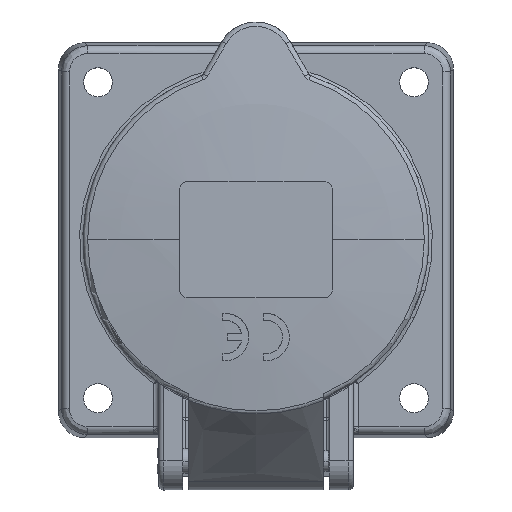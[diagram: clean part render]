
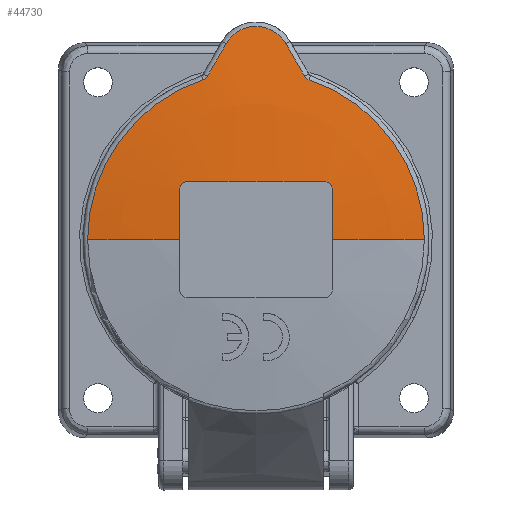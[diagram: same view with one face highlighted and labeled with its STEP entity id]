
A CAD part, top view. The second image highlights one B-rep face of the part: STEP entity #44730.
In plain terms, the highlighted spherical face has radius 250 mm.
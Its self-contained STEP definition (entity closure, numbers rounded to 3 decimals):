
#1560=CARTESIAN_POINT('',(0.,0.,59.646));
#1561=DIRECTION('',(0.,0.,1.));
#1562=DIRECTION('',(-0.315,0.949,0.));
#1563=AXIS2_PLACEMENT_3D('',#1560,#1561,#1562);
#1568=CARTESIAN_POINT('',(-9.245,31.026,59.595));
#1569=CARTESIAN_POINT('',(-9.28,30.964,59.601));
#1570=CARTESIAN_POINT('',(-9.36,30.846,59.613));
#1571=CARTESIAN_POINT('',(-9.51,30.681,59.628));
#1572=CARTESIAN_POINT('',(-9.683,30.54,59.639));
#1573=CARTESIAN_POINT('',(-9.875,30.426,59.645));
#1574=CARTESIAN_POINT('',(-10.007,30.372,59.646));
#1575=CARTESIAN_POINT('',(-10.075,30.349,59.646));
#1580=CARTESIAN_POINT('',(-20.368,11.76,-188.3));
#1581=DIRECTION('',(0.866,-0.5,0.));
#1582=DIRECTION('',(0.059,0.102,0.993));
#1583=AXIS2_PLACEMENT_3D('',#1580,#1581,#1582);
#1588=CARTESIAN_POINT('',(5.652,37.249,58.845));
#1589=CARTESIAN_POINT('',(5.524,37.47,58.814));
#1590=CARTESIAN_POINT('',(5.244,37.895,58.756));
#1591=CARTESIAN_POINT('',(4.753,38.48,58.676));
#1592=CARTESIAN_POINT('',(4.198,39.002,58.604));
#1593=CARTESIAN_POINT('',(3.586,39.456,58.541));
#1594=CARTESIAN_POINT('',(2.927,39.835,58.489));
#1595=CARTESIAN_POINT('',(2.23,40.135,58.448));
#1596=CARTESIAN_POINT('',(1.503,40.352,58.418));
#1597=CARTESIAN_POINT('',(0.757,40.483,58.4));
#1598=CARTESIAN_POINT('',(0.001,40.527,58.394));
#1599=CARTESIAN_POINT('',(-0.756,40.483,
58.4));
#1600=CARTESIAN_POINT('',(-1.502,40.352,58.418));
#1601=CARTESIAN_POINT('',(-2.229,40.135,58.448));
#1602=CARTESIAN_POINT('',(-2.927,39.835,58.489));
#1603=CARTESIAN_POINT('',(-3.586,39.456,58.541));
#1604=CARTESIAN_POINT('',(-4.198,39.002,58.604));
#1605=CARTESIAN_POINT('',(-4.753,38.48,58.676));
#1606=CARTESIAN_POINT('',(-5.244,37.895,58.756));
#1607=CARTESIAN_POINT('',(-5.524,37.47,58.814));
#1608=CARTESIAN_POINT('',(-5.652,37.249,58.845));
#1613=CARTESIAN_POINT('',(20.368,11.76,-188.3));
#1614=DIRECTION('',(-0.866,-0.5,0.));
#1615=DIRECTION('',(-0.045,0.077,0.996));
#1616=AXIS2_PLACEMENT_3D('',#1613,#1614,#1615);
#1621=CARTESIAN_POINT('',(10.075,30.349,59.646));
#1622=CARTESIAN_POINT('',(10.007,30.372,59.646));
#1623=CARTESIAN_POINT('',(9.874,30.426,59.645));
#1624=CARTESIAN_POINT('',(9.683,30.54,59.639));
#1625=CARTESIAN_POINT('',(9.509,30.681,59.628));
#1626=CARTESIAN_POINT('',(9.36,30.846,59.613));
#1627=CARTESIAN_POINT('',(9.28,30.964,59.601));
#1628=CARTESIAN_POINT('',(9.245,31.026,59.595));
#1633=CARTESIAN_POINT('',(0.,0.,59.646));
#1634=DIRECTION('',(0.,0.,1.));
#1635=DIRECTION('',(1.,0.,0.));
#1636=AXIS2_PLACEMENT_3D('',#1633,#1634,#1635);
#1641=CARTESIAN_POINT('',(14.5,0.,-188.3));
#1642=DIRECTION('',(1.,0.,0.));
#1643=DIRECTION('',(0.,0.038,0.999));
#1644=AXIS2_PLACEMENT_3D('',#1641,#1642,#1643);
#1649=CARTESIAN_POINT('',(13.,11.,61.119));
#1650=CARTESIAN_POINT('',(13.087,11.,61.115));
#1651=CARTESIAN_POINT('',(13.262,10.985,61.106));
#1652=CARTESIAN_POINT('',(13.516,10.917,61.096));
#1653=CARTESIAN_POINT('',(13.754,10.805,61.087));
#1654=CARTESIAN_POINT('',(13.969,10.655,61.082));
#1655=CARTESIAN_POINT('',(14.155,10.469,61.079));
#1656=CARTESIAN_POINT('',(14.306,10.254,61.08));
#1657=CARTESIAN_POINT('',(14.417,10.016,61.083));
#1658=CARTESIAN_POINT('',(14.485,9.762,61.089));
#1659=CARTESIAN_POINT('',(14.5,9.587,61.095));
#1660=CARTESIAN_POINT('',(14.5,9.5,61.098));
#1665=CARTESIAN_POINT('',(0.,11.,-188.3));
#1666=DIRECTION('',(0.,1.,0.));
#1667=DIRECTION('',(-0.052,0.,0.999));
#1668=AXIS2_PLACEMENT_3D('',#1665,#1666,#1667);
#1673=CARTESIAN_POINT('',(-14.5,9.5,61.098));
#1674=CARTESIAN_POINT('',(-14.5,9.587,61.095));
#1675=CARTESIAN_POINT('',(-14.485,9.762,61.089));
#1676=CARTESIAN_POINT('',(-14.417,10.016,61.083));
#1677=CARTESIAN_POINT('',(-14.306,10.254,61.08));
#1678=CARTESIAN_POINT('',(-14.155,10.469,61.079));
#1679=CARTESIAN_POINT('',(-13.969,10.655,61.082));
#1680=CARTESIAN_POINT('',(-13.754,10.805,61.087));
#1681=CARTESIAN_POINT('',(-13.516,10.917,61.096));
#1682=CARTESIAN_POINT('',(-13.262,10.985,61.106));
#1683=CARTESIAN_POINT('',(-13.087,11.,61.115));
#1684=CARTESIAN_POINT('',(-13.,11.,61.119));
#1689=CARTESIAN_POINT('',(-14.5,0.,-188.3));
#1690=DIRECTION('',(-1.,0.,0.));
#1691=DIRECTION('',(0.,0.,1.));
#1692=AXIS2_PLACEMENT_3D('',#1689,#1690,#1691);
#2033=CARTESIAN_POINT('',(0.,0.,-188.3));
#2034=DIRECTION('',(0.,1.,0.));
#2035=DIRECTION('',(-0.128,0.,0.992));
#2036=AXIS2_PLACEMENT_3D('',#2033,#2034,#2035);
#2097=CARTESIAN_POINT('',(0.,0.,-188.3));
#2098=DIRECTION('',(0.,-1.,0.));
#2099=DIRECTION('',(0.128,0.,0.992));
#2100=AXIS2_PLACEMENT_3D('',#2097,#2098,#2099);
#40056=CARTESIAN_POINT('',(14.5,9.5,61.098));
#40057=CARTESIAN_POINT('',(14.5,0.,61.279));
#40058=VERTEX_POINT('',#40056);
#40059=VERTEX_POINT('',#40057);
#40060=CARTESIAN_POINT('',(-13.,11.,61.119));
#40061=CARTESIAN_POINT('',(13.,11.,61.119));
#40062=VERTEX_POINT('',#40060);
#40063=VERTEX_POINT('',#40061);
#40064=CARTESIAN_POINT('',(-14.5,0.,61.279));
#40065=CARTESIAN_POINT('',(-14.5,9.5,61.098));
#40066=VERTEX_POINT('',#40064);
#40067=VERTEX_POINT('',#40065);
#40106=CARTESIAN_POINT('',(-31.978,0.,59.646));
#40108=VERTEX_POINT('',#40106);
#40110=CARTESIAN_POINT('',(-10.075,30.349,
59.646));
#40111=VERTEX_POINT('',#40110);
#40112=VERTEX_POINT('',#1568);
#40115=CARTESIAN_POINT('',(-5.652,37.249,
58.845));
#40116=VERTEX_POINT('',#40115);
#40119=VERTEX_POINT('',#1588);
#40121=CARTESIAN_POINT('',(9.245,31.026,59.595));
#40122=VERTEX_POINT('',#40121);
#40125=VERTEX_POINT('',#1621);
#40127=CARTESIAN_POINT('',(31.978,0.,59.646));
#40128=VERTEX_POINT('',#40127);
#44696=CARTESIAN_POINT('',(0.,0.,-188.3));
#44697=DIRECTION('',(0.,0.,-1.));
#44698=DIRECTION('',(1.,0.,0.));
#44699=AXIS2_PLACEMENT_3D('',#44696,#44697,#44698);
#44700=SPHERICAL_SURFACE('1241',#44699,250.);
#44701=ORIENTED_EDGE('4655',*,*,#44673,.F.);
#44703=ORIENTED_EDGE('4656',*,*,#44702,.F.);
#44705=ORIENTED_EDGE('4658',*,*,#44704,.F.);
#44707=ORIENTED_EDGE('4660',*,*,#44706,.F.);
#44709=ORIENTED_EDGE('4662',*,*,#44708,.F.);
#44711=ORIENTED_EDGE('4664',*,*,#44710,.F.);
#44713=ORIENTED_EDGE('4666',*,*,#44712,.F.);
#44715=ORIENTED_EDGE('4669',*,*,#44714,.T.);
#44717=ORIENTED_EDGE('4599',*,*,#44716,.F.);
#44719=ORIENTED_EDGE('4604',*,*,#44718,.F.);
#44721=ORIENTED_EDGE('4600',*,*,#44720,.F.);
#44723=ORIENTED_EDGE('4605',*,*,#44722,.F.);
#44725=ORIENTED_EDGE('4601',*,*,#44724,.F.);
#44727=ORIENTED_EDGE('4668',*,*,#44726,.F.);
#44728=EDGE_LOOP('1241',(#44701,#44703,#44705,#44707,#44709,#44711,#44713,
#44715,#44717,#44719,#44721,#44723,#44725,#44727));
#44729=FACE_OUTER_BOUND('1241',#44728,.F.);
#1564=CIRCLE('4655',#1563,31.978);
#1576=B_SPLINE_CURVE_WITH_KNOTS('4656',3,(#1568,#1569,#1570,#1571,#1572,#1573,
#1574,#1575),.UNSPECIFIED.,.F.,.F.,(4,1,1,1,1,4),(0.,0.2,0.4,0.6,0.8,
1.),.UNSPECIFIED.);
#1584=CIRCLE('4658',#1583,248.891);
#1609=B_SPLINE_CURVE_WITH_KNOTS('4660',3,(#1588,#1589,#1590,#1591,#1592,#1593,
#1594,#1595,#1596,#1597,#1598,#1599,#1600,#1601,#1602,#1603,#1604,#1605,#1606,
#1607,#1608),.UNSPECIFIED.,.F.,.F.,(4,1,1,1,1,1,1,1,1,1,1,1,1,1,1,1,1,1,4),
(0.,0.056,0.111,0.167,0.222,
0.278,0.333,0.389,0.444,0.5,
0.556,0.611,0.667,0.722,
0.778,0.833,0.889,0.944,1.),
.UNSPECIFIED.);
#1617=CIRCLE('4662',#1616,248.891);
#1629=B_SPLINE_CURVE_WITH_KNOTS('4664',3,(#1621,#1622,#1623,#1624,#1625,#1626,
#1627,#1628),.UNSPECIFIED.,.F.,.F.,(4,1,1,1,1,4),(0.,0.2,0.4,0.6,0.8,
1.),.UNSPECIFIED.);
#1637=CIRCLE('4666',#1636,31.978);
#1645=CIRCLE('4599',#1644,249.579);
#1661=B_SPLINE_CURVE_WITH_KNOTS('4604',3,(#1649,#1650,#1651,#1652,#1653,#1654,
#1655,#1656,#1657,#1658,#1659,#1660),.UNSPECIFIED.,.F.,.F.,(4,1,1,1,1,1,1,1,1,
4),(0.,0.111,0.222,0.333,
0.444,0.556,0.667,0.778,
0.889,1.),.UNSPECIFIED.);
#1669=CIRCLE('4600',#1668,249.758);
#1685=B_SPLINE_CURVE_WITH_KNOTS('4605',3,(#1673,#1674,#1675,#1676,#1677,#1678,
#1679,#1680,#1681,#1682,#1683,#1684),.UNSPECIFIED.,.F.,.F.,(4,1,1,1,1,1,1,1,1,
4),(0.,0.111,0.222,0.333,
0.444,0.556,0.667,0.778,
0.889,1.),.UNSPECIFIED.);
#1693=CIRCLE('4601',#1692,249.579);
#2037=CIRCLE('4668',#2036,250.);
#2101=CIRCLE('4669',#2100,250.);
#44673=EDGE_CURVE('4655',#40111,#40108,#1564,.T.);
#44702=EDGE_CURVE('4656',#40112,#40111,#1576,.T.);
#44704=EDGE_CURVE('4658',#40116,#40112,#1584,.T.);
#44706=EDGE_CURVE('4660',#40119,#40116,#1609,.T.);
#44708=EDGE_CURVE('4662',#40122,#40119,#1617,.T.);
#44710=EDGE_CURVE('4664',#40125,#40122,#1629,.T.);
#44712=EDGE_CURVE('4666',#40128,#40125,#1637,.T.);
#44714=EDGE_CURVE('4669',#40128,#40059,#2101,.T.);
#44716=EDGE_CURVE('4599',#40058,#40059,#1645,.T.);
#44718=EDGE_CURVE('4604',#40063,#40058,#1661,.T.);
#44720=EDGE_CURVE('4600',#40062,#40063,#1669,.T.);
#44722=EDGE_CURVE('4605',#40067,#40062,#1685,.T.);
#44724=EDGE_CURVE('4601',#40066,#40067,#1693,.T.);
#44726=EDGE_CURVE('4668',#40108,#40066,#2037,.T.);
#44730=ADVANCED_FACE('1241',(#44729),#44700,.T.);
